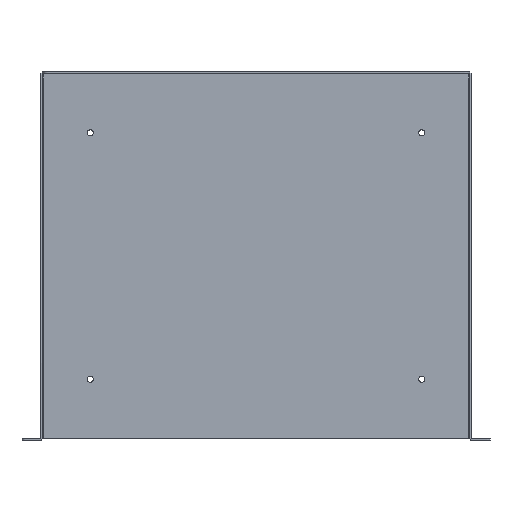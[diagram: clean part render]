
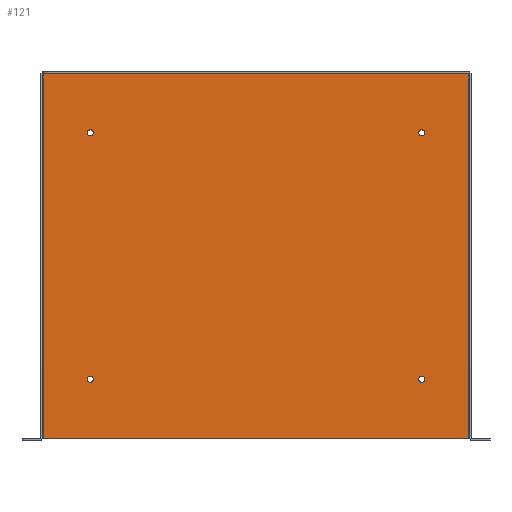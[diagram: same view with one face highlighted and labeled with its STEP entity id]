
A CAD part, top view. The second image highlights one B-rep face of the part: STEP entity #121.
In plain terms, the highlighted planar face has unit normal (0, 0, 1).
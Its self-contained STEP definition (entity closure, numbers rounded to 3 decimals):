
#121 = ADVANCED_FACE( '', ( #297, #298, #299, #300, #301 ), #302, .F. );
#297 = FACE_BOUND( '', #590, .T. );
#298 = FACE_BOUND( '', #591, .T. );
#299 = FACE_BOUND( '', #592, .T. );
#300 = FACE_BOUND( '', #593, .T. );
#301 = FACE_OUTER_BOUND( '', #594, .T. );
#302 = PLANE( '', #595 );
#590 = EDGE_LOOP( '', ( #1262 ) );
#591 = EDGE_LOOP( '', ( #1263 ) );
#592 = EDGE_LOOP( '', ( #1264 ) );
#593 = EDGE_LOOP( '', ( #1265 ) );
#594 = EDGE_LOOP( '', ( #1266, #1267, #1268, #1269 ) );
#595 = AXIS2_PLACEMENT_3D( '', #1270, #1271, #1272 );
#1262 = ORIENTED_EDGE( '', *, *, #1535, .F. );
#1263 = ORIENTED_EDGE( '', *, *, #1533, .F. );
#1264 = ORIENTED_EDGE( '', *, *, #1531, .F. );
#1265 = ORIENTED_EDGE( '', *, *, #1529, .F. );
#1266 = ORIENTED_EDGE( '', *, *, #1401, .F. );
#1267 = ORIENTED_EDGE( '', *, *, #1498, .T. );
#1268 = ORIENTED_EDGE( '', *, *, #1543, .F. );
#1269 = ORIENTED_EDGE( '', *, *, #1392, .T. );
#1270 = CARTESIAN_POINT( '', ( -222.25, 189.586, 1.829 ) );
#1271 = DIRECTION( '', ( 0., 0., -1. ) );
#1272 = DIRECTION( '', ( -1., 0., 0. ) );
#1392 = EDGE_CURVE( '', #1668, #1665, #1669, .T. );
#1401 = EDGE_CURVE( '', #1652, #1665, #1682, .T. );
#1498 = EDGE_CURVE( '', #1652, #1845, #1847, .T. );
#1529 = EDGE_CURVE( '', #1885, #1885, #1886, .T. );
#1531 = EDGE_CURVE( '', #1889, #1889, #1890, .T. );
#1533 = EDGE_CURVE( '', #1893, #1893, #1894, .T. );
#1535 = EDGE_CURVE( '', #1897, #1897, #1898, .T. );
#1543 = EDGE_CURVE( '', #1668, #1845, #1907, .T. );
#1652 = VERTEX_POINT( '', #2088 );
#1665 = VERTEX_POINT( '', #2106 );
#1668 = VERTEX_POINT( '', #2109 );
#1669 = LINE( '', #2110, #2111 );
#1682 = LINE( '', #2130, #2131 );
#1845 = VERTEX_POINT( '', #2422 );
#1847 = LINE( '', #2424, #2425 );
#1885 = VERTEX_POINT( '', #2499 );
#1886 = CIRCLE( '', #2500, 3.175 );
#1889 = VERTEX_POINT( '', #2503 );
#1890 = CIRCLE( '', #2504, 3.175 );
#1893 = VERTEX_POINT( '', #2507 );
#1894 = CIRCLE( '', #2508, 3.175 );
#1897 = VERTEX_POINT( '', #2511 );
#1898 = CIRCLE( '', #2512, 3.175 );
#1907 = LINE( '', #2527, #2528 );
#2088 = CARTESIAN_POINT( '', ( 219.507, 186.842, 1.829 ) );
#2106 = CARTESIAN_POINT( '', ( 219.507, -189.586, 1.829 ) );
#2109 = CARTESIAN_POINT( '', ( -219.507, -189.586, 1.829 ) );
#2110 = CARTESIAN_POINT( '', ( -222.25, -189.586, 1.829 ) );
#2111 = VECTOR( '', #2673, 1000. );
#2130 = CARTESIAN_POINT( '', ( 219.507, 189.586, 1.829 ) );
#2131 = VECTOR( '', #2686, 1000. );
#2422 = CARTESIAN_POINT( '', ( -219.507, 186.842, 1.829 ) );
#2424 = CARTESIAN_POINT( '', ( -219.505, 186.842, 1.829 ) );
#2425 = VECTOR( '', #2829, 1000. );
#2499 = CARTESIAN_POINT( '', ( -167.869, -127.914, 1.829 ) );
#2500 = AXIS2_PLACEMENT_3D( '', #2868, #2869, #2870 );
#2503 = CARTESIAN_POINT( '', ( 174.219, 126.086, 1.829 ) );
#2504 = AXIS2_PLACEMENT_3D( '', #2874, #2875, #2876 );
#2507 = CARTESIAN_POINT( '', ( 174.219, -127.914, 1.829 ) );
#2508 = AXIS2_PLACEMENT_3D( '', #2880, #2881, #2882 );
#2511 = CARTESIAN_POINT( '', ( -167.869, 126.086, 1.829 ) );
#2512 = AXIS2_PLACEMENT_3D( '', #2886, #2887, #2888 );
#2527 = CARTESIAN_POINT( '', ( -219.507, -189.586, 1.829 ) );
#2528 = VECTOR( '', #2898, 1000. );
#2673 = DIRECTION( '', ( 1., 0., 0. ) );
#2686 = DIRECTION( '', ( 0., -1., 0. ) );
#2829 = DIRECTION( '', ( -1., 0., 0. ) );
#2868 = CARTESIAN_POINT( '', ( -171.044, -127.914, 1.829 ) );
#2869 = DIRECTION( '', ( 0., 0., 1. ) );
#2870 = DIRECTION( '', ( 1., 0., 0. ) );
#2874 = CARTESIAN_POINT( '', ( 171.044, 126.086, 1.829 ) );
#2875 = DIRECTION( '', ( 0., 0., 1. ) );
#2876 = DIRECTION( '', ( 1., 0., 0. ) );
#2880 = CARTESIAN_POINT( '', ( 171.044, -127.914, 1.829 ) );
#2881 = DIRECTION( '', ( 0., 0., 1. ) );
#2882 = DIRECTION( '', ( 1., 0., 0. ) );
#2886 = CARTESIAN_POINT( '', ( -171.044, 126.086, 1.829 ) );
#2887 = DIRECTION( '', ( 0., 0., 1. ) );
#2888 = DIRECTION( '', ( 1., 0., 0. ) );
#2898 = DIRECTION( '', ( 0., 1., 0. ) );
